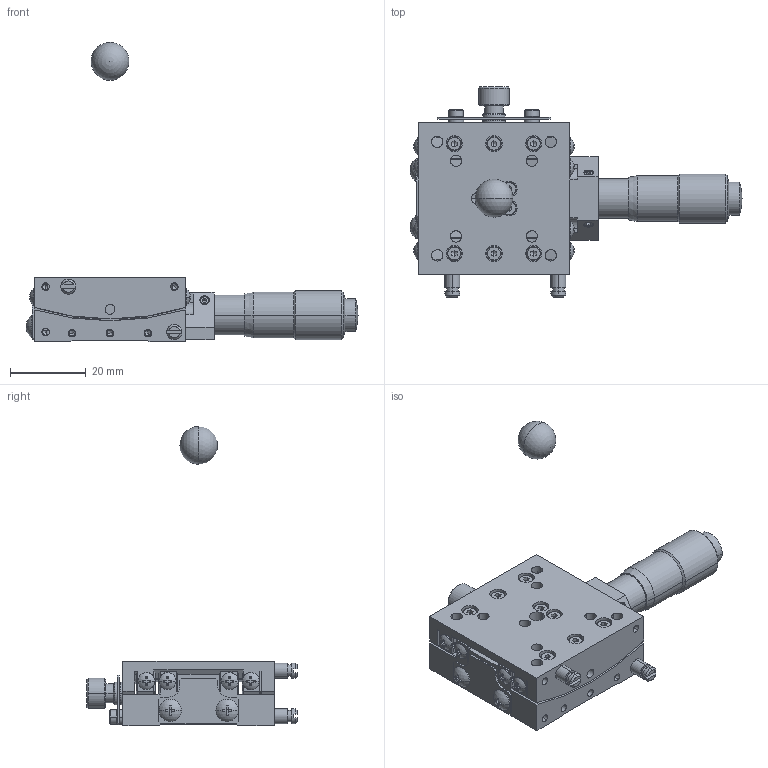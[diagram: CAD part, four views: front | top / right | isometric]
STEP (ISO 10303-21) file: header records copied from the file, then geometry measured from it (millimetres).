
FILE_DESCRIPTION (( 'STEP AP203' ), '1' );
FILE_NAME ('ST04A-C1M.STEP', '2010-01-06T04:50:01', ( ' ' ), ( ' ' ), 'SwSTEP 2.0', 'SolidWorks 2009', '' );
FILE_SCHEMA (( 'CONFIG_CONTROL_DESIGN' ));
Length unit declared in the file: millimetre
Products named in the file (7): DP002892-1020-00-Part-1; DP002892-1020-00; ST04A-C1M.sldasm-Part-1; ST04A-C1M; DP002892-1010-00; DP002892-1010-00-Part-1; MICROMETERHEAD(MHS4-13)spindle
Assembly tree (6 placements, depth 3):
  ST04A-C1M
    MICROMETERHEAD(MHS4-13)spindle
    ST04A-C1M.sldasm-Part-1
    DP002892-1010-00
      DP002892-1010-00-Part-1
    DP002892-1020-00
      DP002892-1020-00-Part-1
Bounding box: 87.68 x 55.5 x 79 mm (x, y, z)
Volume: 28063.5 mm3; surface area: 22737.9 mm2
Topology: 4 solids, 46 shells, 1593 faces, 3826 edges, 2285 vertices
Faces by surface type: plane 681, cylinder 522, cone 356, sphere 26, torus 8
Entity records: 48400 total; most frequent: CARTESIAN_POINT 10498, DIRECTION 8161, ORIENTED_EDGE 7446, EDGE_CURVE 3723, AXIS2_PLACEMENT_3D 3147, VERTEX_POINT 2282, LINE 1867, VECTOR 1867
